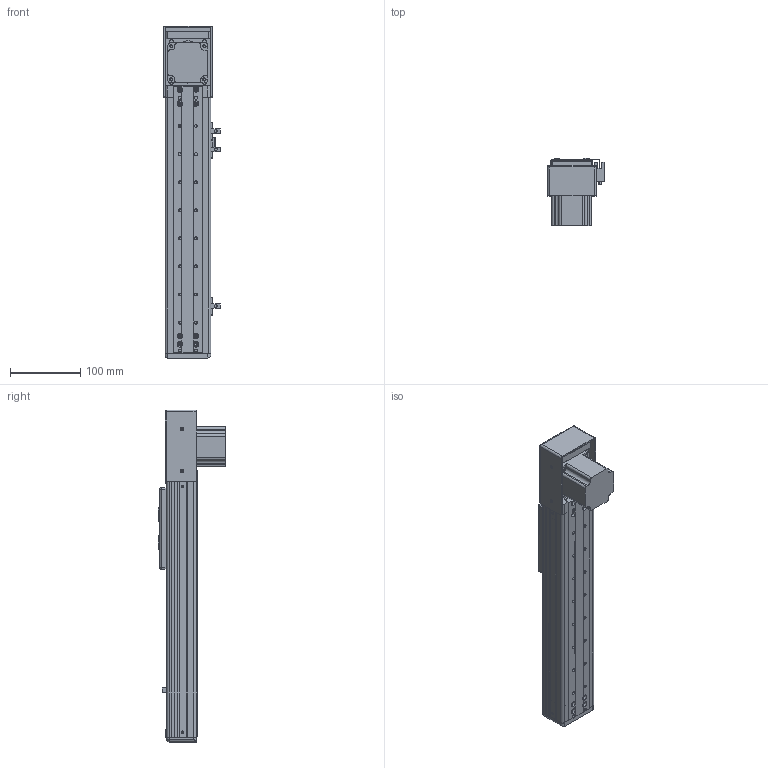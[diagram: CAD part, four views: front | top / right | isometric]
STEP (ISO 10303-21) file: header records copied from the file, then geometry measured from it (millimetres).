
FILE_DESCRIPTION (( 'STEP AP203' ), '1' );
FILE_NAME ('RY60F-T-350-DK.SLDASM_200.step', '2021-03-02T00:56:18', ( '盈信电脑' ), ( '东莞市道滘镇水果街19号' ), 'SwSTEP 2.0', 'SolidWorks 2012', '' );
FILE_SCHEMA (( 'CONFIG_CONTROL_DESIGN' ));
Length unit declared in the file: millimetre
Products named in the file (19): RY60F-祥凄詩滅鳥裔; RY60F-T-下折57电机端同步轮座; RY50-60詩湍揤啣; RY60F-肮祭湍臏賑輸; RY60F-浮动端同步轮支撑座; RY60F-滅鳥詩え盓殤; RY60F-嫖萇羲壽結え; RY60F-T-350-DK.SLDASM_200; RY60F-T-狟殏欶; RY60F-肮祭湍揤輸2; RY60F-T-下折同步带拉紧板; RY60F-肮祭湍揤輸; 57祭輛萇儂; 滅袉蝶18-24; RY60F-T-57萇儂奻殏假蚾啣; RY50F-350-MR15W絳寢-DK_200; RY60F-350-肮祭湍滅鳥詩え-DK_200; 覜茼ん672; RY60F-350肮祭湍俋褲-DK_200
Assembly tree (23 placements, depth 2):
  RY60F-T-350-DK.SLDASM_200
    RY60F-肮祭湍臏賑輸
    RY60F-浮动端同步轮支撑座
    RY60F-滅鳥詩え盓殤
    RY60F-嫖萇羲壽結え
    RY50-60詩湍揤啣  x2
    RY60F-祥凄詩滅鳥裔
    RY60F-T-下折57电机端同步轮座
    RY60F-350肮祭湍俋褲-DK_200  x2
    覜茼ん672  x3
    RY60F-350-肮祭湍滅鳥詩え-DK_200
    RY50F-350-MR15W絳寢-DK_200
    滅袉蝶18-24  x2
    RY60F-T-57萇儂奻殏假蚾啣
    RY60F-T-下折同步带拉紧板
    RY60F-肮祭湍揤輸
    RY60F-肮祭湍揤輸2
    57祭輛萇儂
    RY60F-T-狟殏欶
Bounding box: 80.76 x 96.5 x 473 mm (x, y, z)
Volume: 671686.2 mm3; surface area: 368570.1 mm2
Topology: 23 solids, 23 shells, 1138 faces, 3110 edges, 1996 vertices
Faces by surface type: plane 546, cylinder 511, cone 71, bspline 10
Entity records: 34797 total; most frequent: CARTESIAN_POINT 6337, DIRECTION 5580, ORIENTED_EDGE 5396, EDGE_CURVE 2698, AXIS2_PLACEMENT_3D 1947, VERTEX_POINT 1764, VECTOR 1686, LINE 1686
